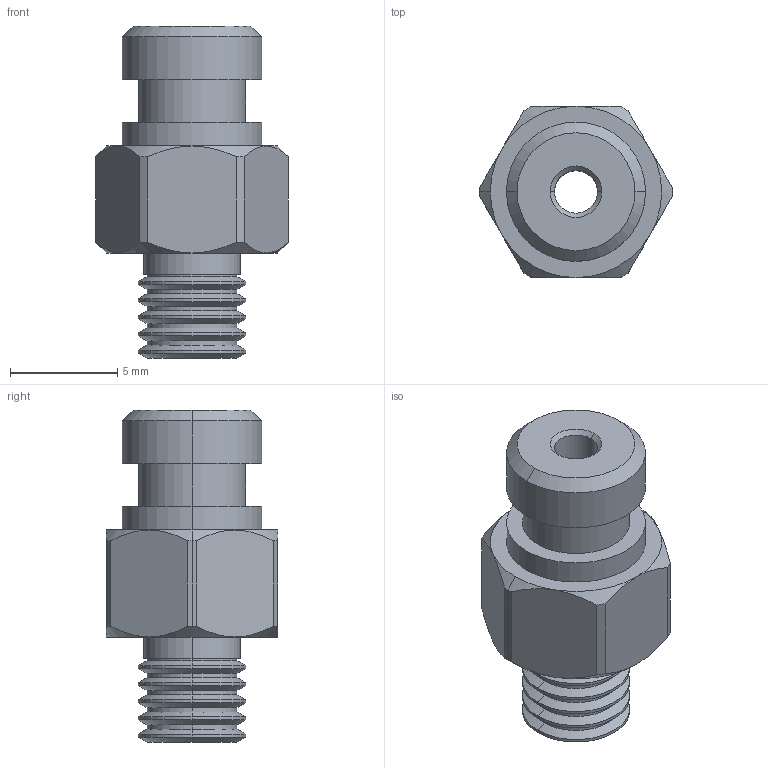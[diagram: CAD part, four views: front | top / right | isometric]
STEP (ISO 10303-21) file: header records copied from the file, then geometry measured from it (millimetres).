
FILE_DESCRIPTION (( 'STEP AP214' ), '1' );
FILE_NAME ('VM12-M5.STEP', '2019-11-14T02:32:43', ( '微软用户' ), ( '微软中国' ), 'SwSTEP 2.0', 'SolidWorks 2016', '' );
FILE_SCHEMA (( 'AUTOMOTIVE_DESIGN' ));
Length unit declared in the file: millimetre
Products named in the file (1): VM12-M5
Bounding box: 9 x 8 x 15.5 mm (x, y, z)
Volume: 462.5 mm3; surface area: 560.1 mm2
Topology: 1 solids, 1 shells, 90 faces, 192 edges, 109 vertices
Faces by surface type: cone 40, cylinder 37, plane 13
Entity records: 2523 total; most frequent: CARTESIAN_POINT 528, DIRECTION 447, ORIENTED_EDGE 384, EDGE_CURVE 192, AXIS2_PLACEMENT_3D 188, VERTEX_POINT 109, EDGE_LOOP 97, CIRCLE 97
